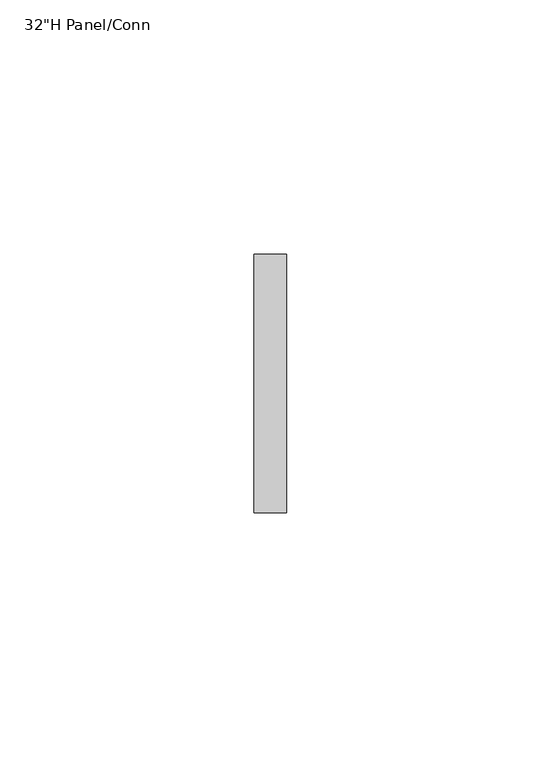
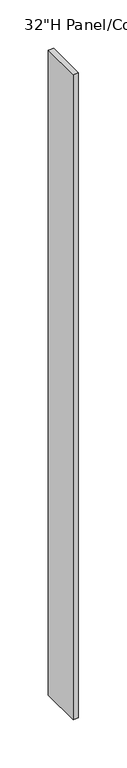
"""IFC4 building model written with IfcOpenShell, lengths in millimetres: furniture geometry."""

import ifcopenshell
import ifcopenshell.guid

model = None  # the IFC model being written
_history = None  # IfcOwnerHistory: only IFC2X3 demands one
_inside = {}  # id of a spatial element -> (the spatial element, [elements in it])
_under = {}  # id of a project, library or spatial element -> (it, [spatial elements below it])
_declared = {}  # id of a project -> (the project, [libraries it declares])
_typed = {}  # id of a type object -> (the type object, [elements of that type])
_made_of = {}  # id of a material, layer set ... -> (it, [elements and type objects made of it])


def new_model(schema):
    """Start an empty IFC model of exactly this schema.

    Asked for "IFC4X3", IfcOpenShell would pick the latest addendum, in which some entities
    have other attributes; the version numbers below select the first issue.
    IFC2X3 requires an IfcOwnerHistory on every rooted entity: one is made here for all.
    """
    global model, _history
    if schema == "IFC4X3":
        model = ifcopenshell.file(schema_version=(4, 3, 0, 0))
    else:
        model = ifcopenshell.file(schema=schema)
    _inside.clear()
    _under.clear()
    _declared.clear()
    _typed.clear()
    _made_of.clear()
    _history = None
    if model.schema == "IFC2X3":
        org = make("IfcOrganization", Name="unknown")
        user = make(
            "IfcPersonAndOrganization",
            ThePerson=make("IfcPerson", FamilyName="unknown"),
            TheOrganization=org,
        )
        app = make(
            "IfcApplication",
            ApplicationDeveloper=org,
            Version="unknown",
            ApplicationFullName="unknown",
            ApplicationIdentifier="unknown",
        )
        _history = make(
            "IfcOwnerHistory",
            OwningUser=user,
            OwningApplication=app,
            ChangeAction="ADDED",
            CreationDate=0,
        )
    return model


def make(cls, **values):
    """One entity of the class cls with the attributes given. An attribute that is None is left unset."""
    return model.create_entity(
        cls, **{name: value for name, value in values.items() if value is not None}
    )


def rooted(cls, **values):
    """An entity with a GlobalId (a new one), such as an element, a storey or a relation."""
    return make(cls, GlobalId=ifcopenshell.guid.new(), OwnerHistory=_history, **values)


def si_unit(unit_type, name, prefix=None):
    """IfcSIUnit, for example si_unit("LENGTHUNIT", "METRE", prefix="MILLI")."""
    return make("IfcSIUnit", UnitType=unit_type, Prefix=prefix, Name=name)


def assignment(units):
    """IfcUnitAssignment: the units of a project."""
    return None if units is None else make("IfcUnitAssignment", Units=units)


def point(xyz):
    """IfcCartesianPoint."""
    return None if xyz is None else make("IfcCartesianPoint", Coordinates=xyz)


def direction(xyz):
    """IfcDirection."""
    return None if xyz is None else make("IfcDirection", DirectionRatios=xyz)


def frame(location, z_axis=None, x_axis=None):
    """IfcAxis2Placement3D, a coordinate frame: its origin and axes. An axis left out is left unset."""
    return make(
        "IfcAxis2Placement3D",
        Location=point(location),
        Axis=direction(z_axis),
        RefDirection=direction(x_axis),
    )


def origin():
    """The frame at (0, 0, 0) with its axes left unset."""
    return frame((0.0, 0.0, 0.0))


def place(relative_to, where):
    """IfcLocalPlacement: puts the frame where relative to a parent placement (None: the world)."""
    return make(
        "IfcLocalPlacement", PlacementRelTo=relative_to, RelativePlacement=where
    )


def context(
    kind, dimensions, precision=None, world=None, true_north=None, identifier=None
):
    """IfcGeometricRepresentationContext, for example the 3D "Model" context."""
    return make(
        "IfcGeometricRepresentationContext",
        ContextIdentifier=identifier,
        ContextType=kind,
        CoordinateSpaceDimension=dimensions,
        Precision=precision,
        WorldCoordinateSystem=world,
        TrueNorth=true_north,
    )


def project(units=None, contexts=None):
    """IfcProject with its units and contexts."""
    return rooted(
        "IfcProject",
        Name="project",
        RepresentationContexts=contexts,
        UnitsInContext=assignment(units),
    )


def spatial(cls, under=None, at=None, **own):
    """A site, building, storey or space (cls), placed at a placement, below another one or the project."""
    s = rooted(cls, ObjectPlacement=at, **own)
    if under is not None:
        _under.setdefault(under.id(), (under, []))[1].append(s)
    return s


def polyline(points):
    """IfcPolyline through the points."""
    return make("IfcPolyline", Points=[point(p) for p in points])


def outline(outer, holes=None, kind="AREA"):
    """IfcArbitraryClosedProfileDef: a profile drawn as a closed curve; with holes, ...WithVoids."""
    if holes is None:
        return make("IfcArbitraryClosedProfileDef", ProfileType=kind, OuterCurve=outer)
    return make(
        "IfcArbitraryProfileDefWithVoids",
        ProfileType=kind,
        OuterCurve=outer,
        InnerCurves=holes,
    )


def extrude(swept, where, along, depth):
    """IfcExtrudedAreaSolid: the profile swept, set in the frame where, extruded along a direction by depth."""
    return make(
        "IfcExtrudedAreaSolid",
        SweptArea=swept,
        Position=where,
        ExtrudedDirection=direction(along),
        Depth=depth,
    )


def shape(context_of_items, identifier, shape_type, items):
    """IfcShapeRepresentation: the items that make up one representation, for example the "Body"."""
    return make(
        "IfcShapeRepresentation",
        ContextOfItems=context_of_items,
        RepresentationIdentifier=identifier,
        RepresentationType=shape_type,
        Items=items,
    )


def source(mapping_origin, context_of_items, identifier, shape_type, items):
    """IfcRepresentationMap: a shape defined once, which mapped items show again and again."""
    return make(
        "IfcRepresentationMap",
        MappingOrigin=mapping_origin,
        MappedRepresentation=shape(context_of_items, identifier, shape_type, items),
    )


def transform(
    local_origin,
    x_axis=None,
    y_axis=None,
    z_axis=None,
    scale=None,
    scale2=None,
    scale3=None,
    uniform=True,
):
    """IfcCartesianTransformationOperator3D, or its non-uniform kind. x_axis, y_axis, z_axis: its Axis1, 2, 3."""
    if uniform:
        return make(
            "IfcCartesianTransformationOperator3D",
            Axis1=direction(x_axis),
            Axis2=direction(y_axis),
            LocalOrigin=point(local_origin),
            Scale=scale,
            Axis3=direction(z_axis),
        )
    return make(
        "IfcCartesianTransformationOperator3DnonUniform",
        Axis1=direction(x_axis),
        Axis2=direction(y_axis),
        LocalOrigin=point(local_origin),
        Scale=scale,
        Axis3=direction(z_axis),
        Scale2=scale2,
        Scale3=scale3,
    )


def mapped(mapping_source, mapping_target):
    """IfcMappedItem: shows the shape of a source again, moved by a transform."""
    return make(
        "IfcMappedItem", MappingSource=mapping_source, MappingTarget=mapping_target
    )


def made_of(thing, what):
    """Note that an element or type object is made of a material, layer set ...; save() writes the relation."""
    if what is not None:
        _made_of.setdefault(what.id(), (what, []))[1].append(thing)
    return thing


def element(
    cls,
    number,
    at=None,
    inside=None,
    cuts=None,
    type_object=None,
    material=None,
    context=None,
    identifier="Body",
    shape_type=None,
    held_by="IfcProductDefinitionShape",
    body=None,
    shapes=None,
    **own,
):
    """One element of the class cls, such as IfcWall. Its Tag is "e" and its number.

    at: its placement. inside: the storey or other place that contains it. cuts: it is an
    opening in that element (IfcRelVoidsElement). A single representation is given by context,
    identifier, shape_type and body (its items); several are given by shapes. held_by: the class
    of the entity that holds the representations. save() writes the other relations.
    """
    e = rooted(cls, Tag="e%d" % number, ObjectPlacement=at, **own)
    if body is not None:
        shapes = [shape(context, identifier, shape_type, body)]
    if shapes is not None:
        e.Representation = make(held_by, Representations=shapes)
    if inside is not None:
        _inside.setdefault(inside.id(), (inside, []))[1].append(e)
    if cuts is not None:
        rooted(
            "IfcRelVoidsElement", RelatingBuildingElement=cuts, RelatedOpeningElement=e
        )
    if type_object is not None:
        _typed.setdefault(type_object.id(), (type_object, []))[1].append(e)
    return made_of(e, material)


def aggregate(whole, parts):
    """IfcRelAggregates: a whole, such as a stair, and the parts it consists of."""
    return rooted("IfcRelAggregates", RelatingObject=whole, RelatedObjects=parts)


def save(model, path):
    """Write the relations noted so far, then the file.

    IfcRelAggregates (storeys below a building ...), IfcRelContainedInSpatialStructure (elements
    in a storey), IfcRelDefinesByType, IfcRelAssociatesMaterial and IfcRelDeclares: one each for
    every whole, place, type object, material and project.
    """
    for whole, parts in _under.values():
        aggregate(whole, parts)
    for where, things in _inside.values():
        rooted(
            "IfcRelContainedInSpatialStructure",
            RelatedElements=things,
            RelatingStructure=where,
        )
    for kind, things in _typed.values():
        rooted("IfcRelDefinesByType", RelatedObjects=things, RelatingType=kind)
    for what, things in _made_of.values():
        rooted("IfcRelAssociatesMaterial", RelatedObjects=things, RelatingMaterial=what)
    for by, libraries in _declared.values():
        rooted("IfcRelDeclares", RelatingContext=by, RelatedDefinitions=libraries)
    model.write(path)


def furniture_9d04d1cc(model_context):
    return source(origin(), model_context, "Body", "SweptSolid", [
        extrude(outline(polyline([(-60.5209988, 104.9709924), (-60.5209967, 54.1709916), (-66.8709967, 54.1709914), (-66.8709988, 104.9709922), (-60.5209988, 104.9709924)])), frame((0.0, 0.0, 95.2500008), z_axis=(0.0, 0.0, 1.0), x_axis=(1.0, 0.0, 0.0)), (0.0, 0.0, 1.0), 812.8),
    ])


if __name__ == "__main__":
    model = new_model("IFC4")
    model_context = context("Model", 3, world=origin())
    ifc_project = project(units=[si_unit("LENGTHUNIT", "METRE", prefix="MILLI")], contexts=[model_context])
    site = spatial("IfcSite", under=ifc_project)
    building = spatial("IfcBuilding", under=site)
    placement = place(None, origin())
    furniture_shape = furniture_9d04d1cc(model_context)
    element("IfcFurniture", 1, ObjectType="HermanMiller_ActionOffice_AO259_AO272_FinishedEndChangeOfHeight : 32\"H Panel/Conn", at=placement, inside=building, context=model_context, shape_type="MappedRepresentation", body=[
        mapped(furniture_shape, transform((0.0, 0.0, 0.0), x_axis=(1.0, 0.0, 0.0), y_axis=(0.0, 1.0, 0.0), z_axis=(0.0, 0.0, 1.0))),
    ])
    save(model, "model.ifc")
